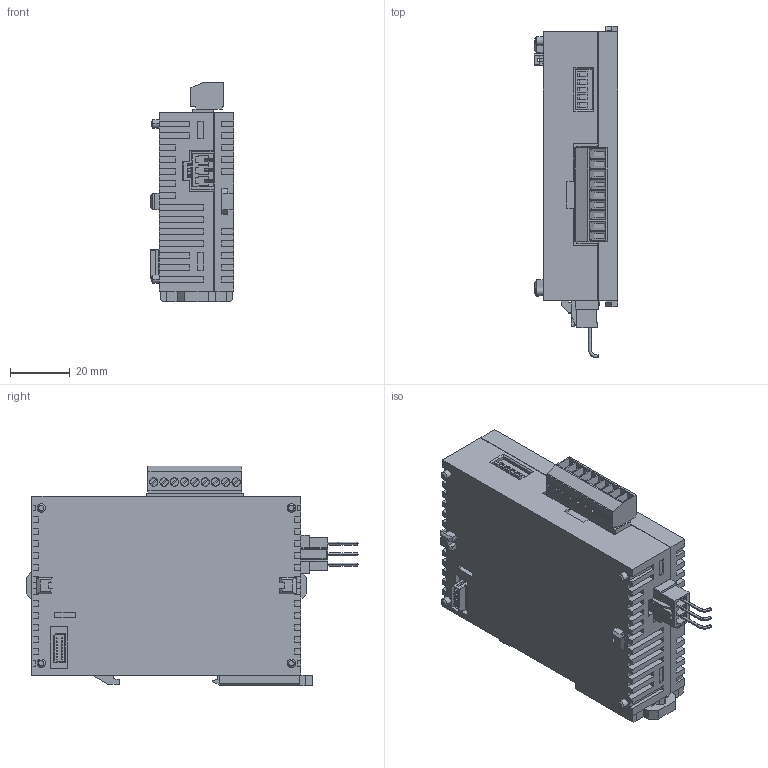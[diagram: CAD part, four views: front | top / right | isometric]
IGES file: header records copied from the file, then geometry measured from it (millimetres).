
Global section: organization: PanasonicElectricWorks; date: 080828.133605; units: millimetre
Bounding box: 28 x 111.19 x 73.45 mm (x, y, z)
Surface area: 25614.1 mm2 (no closed solid volume)
Topology: 0 solids, 0 shells, 884 faces, 6034 edges, 6032 vertices
Faces by surface type: bspline 819, revolution 65
